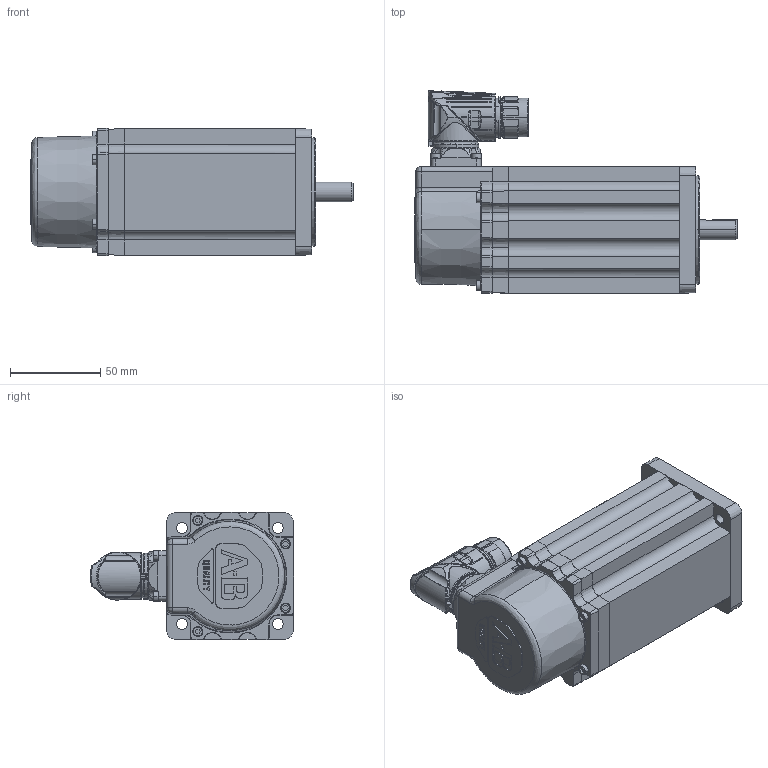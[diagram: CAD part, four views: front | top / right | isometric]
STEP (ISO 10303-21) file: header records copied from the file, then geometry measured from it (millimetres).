
FILE_DESCRIPTION (( 'STEP AP214' ), '1' );
FILE_NAME ('Rockwell Automation-$PARTNUMBER.STEP', '2014-02-26T10:51:36', ( 'Windows User' ), ( '' ), 'SwSTEP 2.0', 'SolidWorks 2014', '' );
FILE_SCHEMA (( 'AUTOMOTIVE_DESIGN' ));
Length unit declared in the file: inch
Products named in the file (27): Rockwell Automation-$PARTNUMBER_Rockwell Automation-VPL-x0751x-xJx4xx_10000206536_ASM_ANY_ASM_1; Rockwell Automation-$PARTNUMBER_Rockwell Automation-VPL-x0751x-xJx4xx_0011-G402_ANY_2; Rockwell Automation-$PARTNUMBER_Rockwell Automation-VPL-x0751x-xJx4xx_10000206535_AF0_ANY_1; Rockwell Automation-$PARTNUMBER_Rockwell Automation-VPL-x0751x-xJx4xx_REAR_ASM_ANY_ASM; Rockwell Automation-$PARTNUMBER_Rockwell Automation-VPL-x0751x-xJx4xx_10000210273_AF2_ANY_1; Rockwell Automation-$PARTNUMBER_Rockwell Automation-VPL-x0751x-xJx4xx_PRT0002; Rockwell Automation-$PARTNUMBER_Rockwell Automation-VPL-x0751x-xJx4xx_10000213398_ANY_1; Rockwell Automation-$PARTNUMBER_Rockwell Automation-VPL-x0751x-xJx4xx_PRT0001; Rockwell Automation-$PARTNUMBER_Rockwell Automation-VPL-x0751x-xJx4xx_vpl-middle-075_0751-Break; Rockwell Automation-$PARTNUMBER_Rockwell Automation-VPL-x0751x-xJx4xx_10000220495_ASM_1_ANY_ASM; Rockwell Automation-$PARTNUMBER_Rockwell Automation-VPL-x0751x-xJx4xx_10000206533_AF0_ANY; Rockwell Automation-$PARTNUMBER; Rockwell Automation-$PARTNUMBER_Rockwell Automation-VPL-x0751x-xJx4xx_10000220495_ASM_ANY; Rockwell Automation-$PARTNUMBER_Rockwell Automation-VPL-x0751x-xJx4xx_10000205606_AF31_ANY; Rockwell Automation-$PARTNUMBER_Rockwell Automation-VPL-x0751x-xJx4xx_10000218021_ANY; Rockwell Automation-$PARTNUMBER_Rockwell Automation-VPL-x0751x-xJx4xx_91290A115_ANY; Rockwell Automation-$PARTNUMBER_Rockwell Automation-VPL-x0751x-xJx4xx_M23_Connector; Rockwell Automation-$PARTNUMBER_Rockwell Automation-VPL-x0751x-xJx4xx_10000014326-M23_ASM; Rockwell Automation-$PARTNUMBER_Rockwell Automation-VPL-x0751x-xJx4xx_10000014326-1; Rockwell Automation-$PARTNUMBER_Rockwell Automation-VPL-x0751x-xJx4xx_10000014325-1; Rockwell Automation-$PARTNUMBER_Rockwell Automation-VPL-x0751x-xJx4xx_10000540833; Rockwell Automation-$PARTNUMBER_Rockwell Automation-VPL-x0751x-xJx4xx_FRONT_without key_1; Rockwell Automation-$PARTNUMBER_Rockwell Automation-VPL-x0751x-xJx4xx_FRONT_1; Rockwell Automation-$PARTNUMBER_Rockwell Automation-VPL-x0751x-xJx4xx_tab; Rockwell Automation-$PARTNUMBER_Rockwell Automation-VPL-x0751x-xJx4xx_vpl-075_0751-break; Rockwell Automation-$PARTNUMBER_Rockwell Automation-VPL-x0751x-xJx4xx_10000169222_ANY_1; Rockwell Automation-$PARTNUMBER_Rockwell Automation-VPL-x0751x-xJx4xx_FRONT_withkey_075_shaft_Shaft_J_1_4
Assembly tree (36 placements, depth 6):
  Rockwell Automation-$PARTNUMBER
    Rockwell Automation-$PARTNUMBER_Rockwell Automation-VPL-x0751x-xJx4xx_vpl-075_0751-break
      Rockwell Automation-$PARTNUMBER_Rockwell Automation-VPL-x0751x-xJx4xx_vpl-middle-075_0751-Break
      Rockwell Automation-$PARTNUMBER_Rockwell Automation-VPL-x0751x-xJx4xx_FRONT_without key_1
        Rockwell Automation-$PARTNUMBER_Rockwell Automation-VPL-x0751x-xJx4xx_FRONT_1
          Rockwell Automation-$PARTNUMBER_Rockwell Automation-VPL-x0751x-xJx4xx_10000213398_ANY_1
          Rockwell Automation-$PARTNUMBER_Rockwell Automation-VPL-x0751x-xJx4xx_10000206536_ASM_ANY_ASM_1
            Rockwell Automation-$PARTNUMBER_Rockwell Automation-VPL-x0751x-xJx4xx_10000210273_AF2_ANY_1
            Rockwell Automation-$PARTNUMBER_Rockwell Automation-VPL-x0751x-xJx4xx_10000206535_AF0_ANY_1
          Rockwell Automation-$PARTNUMBER_Rockwell Automation-VPL-x0751x-xJx4xx_10000169222_ANY_1  x4
      Rockwell Automation-$PARTNUMBER_Rockwell Automation-VPL-x0751x-xJx4xx_REAR_ASM_ANY_ASM
        Rockwell Automation-$PARTNUMBER_Rockwell Automation-VPL-x0751x-xJx4xx_M23_Connector
          Rockwell Automation-$PARTNUMBER_Rockwell Automation-VPL-x0751x-xJx4xx_10000540833
          Rockwell Automation-$PARTNUMBER_Rockwell Automation-VPL-x0751x-xJx4xx_10000014325-1
          Rockwell Automation-$PARTNUMBER_Rockwell Automation-VPL-x0751x-xJx4xx_10000014326-M23_ASM
            Rockwell Automation-$PARTNUMBER_Rockwell Automation-VPL-x0751x-xJx4xx_10000014326-1
        Rockwell Automation-$PARTNUMBER_Rockwell Automation-VPL-x0751x-xJx4xx_91290A115_ANY  x4
        Rockwell Automation-$PARTNUMBER_Rockwell Automation-VPL-x0751x-xJx4xx_10000218021_ANY  x2
        Rockwell Automation-$PARTNUMBER_Rockwell Automation-VPL-x0751x-xJx4xx_10000220495_ASM_1_ANY_ASM
          Rockwell Automation-$PARTNUMBER_Rockwell Automation-VPL-x0751x-xJx4xx_10000205606_AF31_ANY
          Rockwell Automation-$PARTNUMBER_Rockwell Automation-VPL-x0751x-xJx4xx_10000220495_ASM_ANY  x2
          Rockwell Automation-$PARTNUMBER_Rockwell Automation-VPL-x0751x-xJx4xx_10000206533_AF0_ANY
        Rockwell Automation-$PARTNUMBER_Rockwell Automation-VPL-x0751x-xJx4xx_PRT0001  x4
        Rockwell Automation-$PARTNUMBER_Rockwell Automation-VPL-x0751x-xJx4xx_PRT0002
      Rockwell Automation-$PARTNUMBER_Rockwell Automation-VPL-x0751x-xJx4xx_0011-G402_ANY_2
      Rockwell Automation-$PARTNUMBER_Rockwell Automation-VPL-x0751x-xJx4xx_FRONT_withkey_075_shaft_Shaft_J_1_4
  Rockwell Automation-$PARTNUMBER_Rockwell Automation-VPL-x0751x-xJx4xx_tab
Bounding box: 178.5 x 112.23 x 70.31 mm (x, y, z)
Volume: 242985.5 mm3; surface area: 163116.3 mm2
Topology: 22 solids, 42 shells, 3125 faces, 8577 edges, 5556 vertices
Faces by surface type: cylinder 1013, plane 942, bspline 786, cone 382, torus 2
Entity records: 161226 total; most frequent: CARTESIAN_POINT 88035, ORIENTED_EDGE 14407, DIRECTION 8514, EDGE_CURVE 7222, VERTEX_POINT 4739, B_SPLINE_CURVE_WITH_KNOTS 3661, AXIS2_PLACEMENT_3D 3188, EDGE_LOOP 2769
